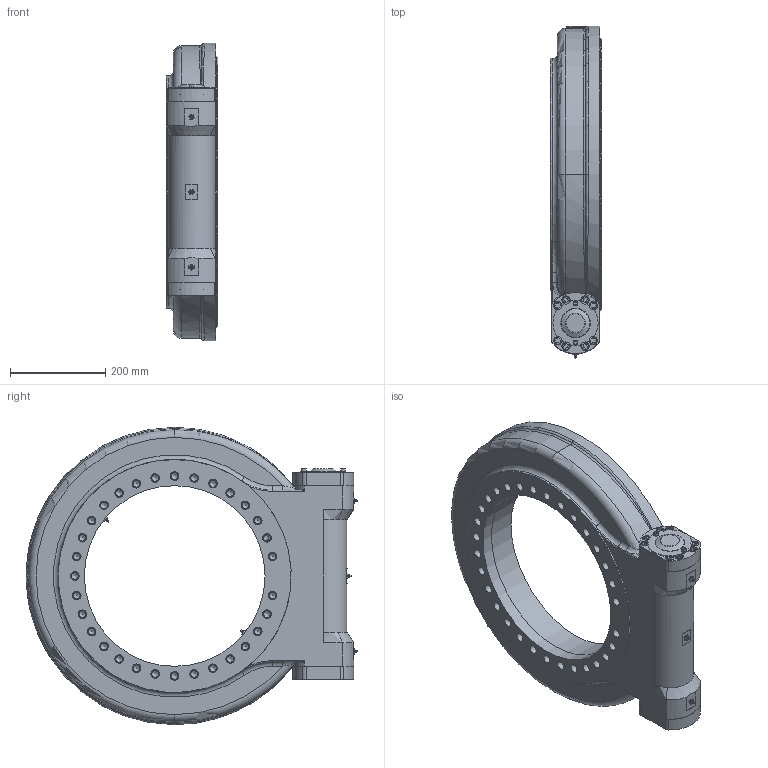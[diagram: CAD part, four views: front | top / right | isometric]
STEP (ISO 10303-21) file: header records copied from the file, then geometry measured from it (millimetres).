
FILE_DESCRIPTION (( 'STEP AP214' ), '1' );
FILE_NAME ('FWA19-94M-25H-R-REV.A.STEP', '2023-07-20T05:37:35', ( '' ), ( '' ), 'SwSTEP 2.0', 'SolidWorks 2018', '' );
FILE_SCHEMA (( 'AUTOMOTIVE_DESIGN' ));
Length unit declared in the file: millimetre
Products named in the file (1): FWA19-94M-25H-R-REV.A
Bounding box: 108 x 697.8 x 625 mm (x, y, z)
Volume: 15403598.2 mm3; surface area: 2161205 mm2
Topology: 17 solids, 17 shells, 1089 faces, 2346 edges, 1514 vertices
Faces by surface type: plane 458, cylinder 379, cone 130, torus 75, bspline 41, sphere 6
Full cylindrical faces by diameter (mm): 5 x2, 6 x2, 7 x8, 8 x3, 8.5 x16, 9.093 x1, 10 x26, 11 x16, 11.5 x2, 12 x2, 14 x62, 16 x82, 17.5 x16, 18 x35, 19 x1, 22 x1, 25.4 x1, 33.5 x1, 40 x5, 40.756 x1, 41.837 x1, 41.908 x1, 42.231 x1, 47 x1, 50 x3, 51.124 x1, 55 x2, 57 x1, 66 x2, 67 x1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
Entity records: 41760 total; most frequent: CARTESIAN_POINT 8405, DIRECTION 4569, ORIENTED_EDGE 3316, AXIS2_PLACEMENT_3D 1974, EDGE_LOOP 1925, EDGE_CURVE 1658, FACE_OUTER_BOUND 1477, VERTEX_POINT 1343
